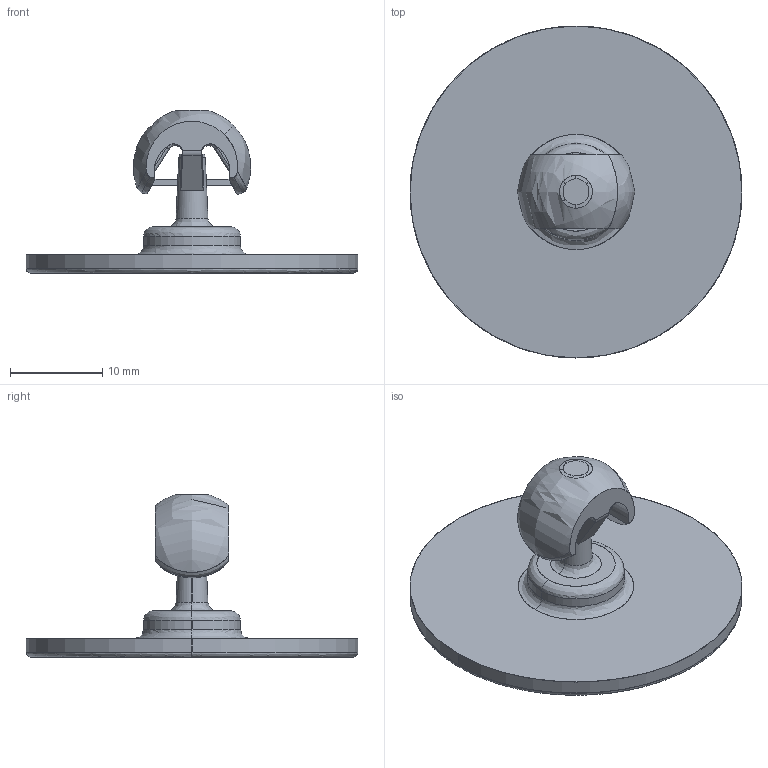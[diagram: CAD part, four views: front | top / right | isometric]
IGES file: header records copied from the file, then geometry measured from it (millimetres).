
Start section: SolidWorks IGES file using analytic representation for surfaces
Global section: file name: D:\Blender\Clients\FAS - Fastmount\FAS000 - General\Customer files\Clip Geometry\PC - Standard Range\IGES\PC-SM1AC.IGS; native system: SolidWorks 2018; preprocessor: SolidWorks 2018; author: Evan; date: 190204.094733; units: millimetre
Bounding box: 36 x 36 x 17.77 mm (x, y, z)
Surface area: 3028.1 mm2 (no closed solid volume)
Topology: 0 solids, 0 shells, 756 faces, 7754 edges, 7739 vertices
Faces by surface type: bspline 705, revolution 51
